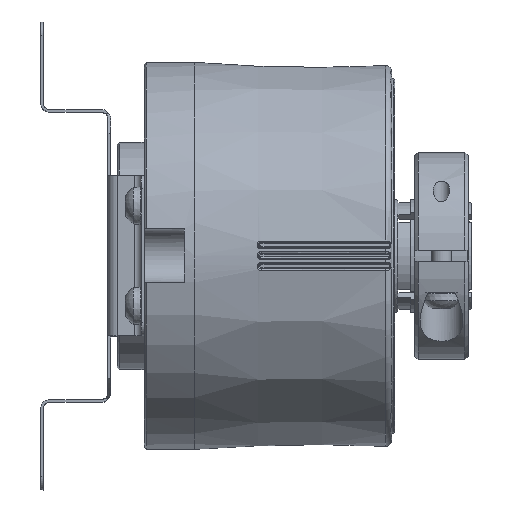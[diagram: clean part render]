
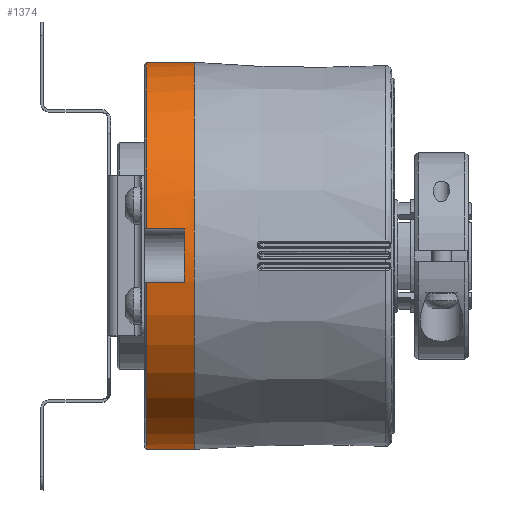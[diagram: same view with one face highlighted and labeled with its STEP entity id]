
A CAD part, top view. The second image highlights one B-rep face of the part: STEP entity #1374.
In plain terms, the highlighted cylindrical face has radius 29 mm (diameter 58 mm), a full revolution.
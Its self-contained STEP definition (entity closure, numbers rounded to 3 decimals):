
#1374 = ADVANCED_FACE( '', ( #3512, #3513 ), #3514, .T. );
#3512 = FACE_OUTER_BOUND( '', #9402, .T. );
#3513 = FACE_OUTER_BOUND( '', #9403, .T. );
#3514 = CYLINDRICAL_SURFACE( '', #9404, 29. );
#9402 = EDGE_LOOP( '', ( #23596 ) );
#9403 = EDGE_LOOP( '', ( #23597, #23598, #23599, #23600 ) );
#9404 = AXIS2_PLACEMENT_3D( '', #23601, #23602, #23603 );
#23596 = ORIENTED_EDGE( '', *, *, #30093, .F. );
#23597 = ORIENTED_EDGE( '', *, *, #30232, .T. );
#23598 = ORIENTED_EDGE( '', *, *, #30233, .F. );
#23599 = ORIENTED_EDGE( '', *, *, #30135, .T. );
#23600 = ORIENTED_EDGE( '', *, *, #29225, .T. );
#23601 = CARTESIAN_POINT( '', ( 8.4, 0., 0. ) );
#23602 = DIRECTION( '', ( 1., 0., 0. ) );
#23603 = DIRECTION( '', ( 0., -0.866, 0.5 ) );
#29225 = EDGE_CURVE( '', #32241, #32242, #32243, .T. );
#30093 = EDGE_CURVE( '', #33731, #33731, #33732, .T. );
#30135 = EDGE_CURVE( '', #33798, #32241, #33801, .T. );
#30232 = EDGE_CURVE( '', #32242, #33954, #33955, .T. );
#30233 = EDGE_CURVE( '', #33798, #33954, #33956, .T. );
#32241 = VERTEX_POINT( '', #36754 );
#32242 = VERTEX_POINT( '', #36755 );
#32243 = CIRCLE( '', #36756, 29. );
#33731 = VERTEX_POINT( '', #40696 );
#33732 = CIRCLE( '', #40697, 29. );
#33798 = VERTEX_POINT( '', #40837 );
#33801 = LINE( '', #40850, #40851 );
#33954 = VERTEX_POINT( '', #41353 );
#33955 = LINE( '', #41354, #41355 );
#33956 = CIRCLE( '', #41356, 29. );
#36754 = CARTESIAN_POINT( '', ( 10.5, 4., 28.723 ) );
#36755 = CARTESIAN_POINT( '', ( 10.5, -4., 28.723 ) );
#36756 = AXIS2_PLACEMENT_3D( '', #51923, #51924, #51925 );
#40696 = CARTESIAN_POINT( '', ( 12., 0., 29. ) );
#40697 = AXIS2_PLACEMENT_3D( '', #53033, #53034, #53035 );
#40837 = CARTESIAN_POINT( '', ( 4.8, 4., 28.723 ) );
#40850 = CARTESIAN_POINT( '', ( 7.65, 4., 28.723 ) );
#40851 = VECTOR( '', #53097, 1000. );
#41353 = CARTESIAN_POINT( '', ( 4.8, -4., 28.723 ) );
#41354 = CARTESIAN_POINT( '', ( 7.65, -4., 28.723 ) );
#41355 = VECTOR( '', #53182, 1000. );
#41356 = AXIS2_PLACEMENT_3D( '', #53183, #53184, #53185 );
#51923 = CARTESIAN_POINT( '', ( 10.5, 0., 0. ) );
#51924 = DIRECTION( '', ( 1., 0., 0. ) );
#51925 = DIRECTION( '', ( 0., -0.866, 0.5 ) );
#53033 = CARTESIAN_POINT( '', ( 12., 0., 0. ) );
#53034 = DIRECTION( '', ( 1., 0., 0. ) );
#53035 = DIRECTION( '', ( 0., 0., 1. ) );
#53097 = DIRECTION( '', ( 1., 0., 0. ) );
#53182 = DIRECTION( '', ( -1., 0., 0. ) );
#53183 = CARTESIAN_POINT( '', ( 4.8, 0., 0. ) );
#53184 = DIRECTION( '', ( -1., 0., 0. ) );
#53185 = DIRECTION( '', ( 0., -0.866, 0.5 ) );
